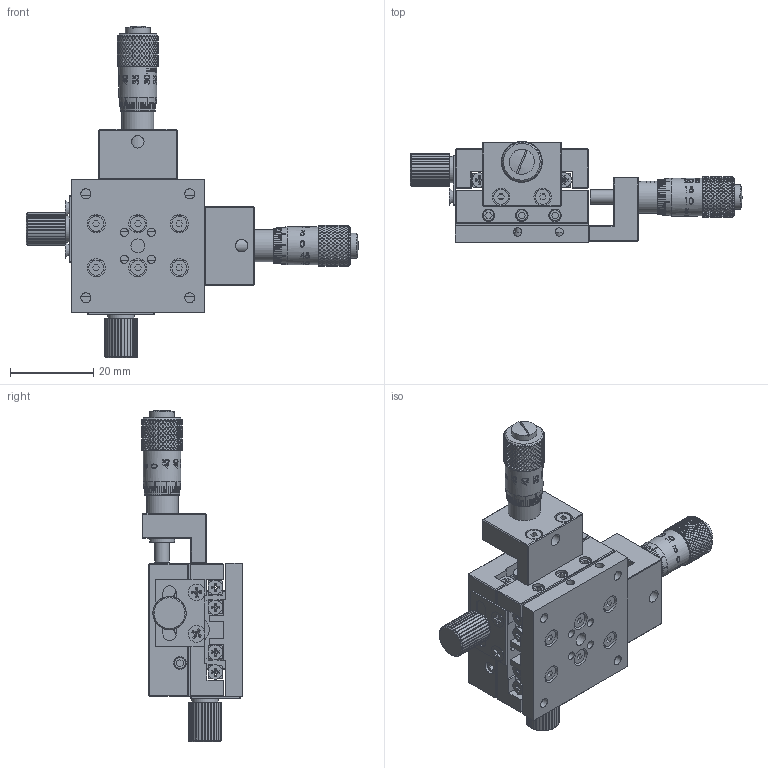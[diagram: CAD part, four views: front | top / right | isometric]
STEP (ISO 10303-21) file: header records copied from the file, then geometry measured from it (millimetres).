
FILE_DESCRIPTION (( 'STEP AP203' ), '1' );
FILE_NAME ('TCS32XY-03.step', '2017-01-10T09:16:53', ( '¦K¬P' ), ( '' ), 'SwSTEP 2.0', 'SolidWorks 2012', '' );
FILE_SCHEMA (( 'CONFIG_CONTROL_DESIGN' ));
Products named in the file (1): TCS32XY-03
Bounding box: 79.87 x 24.2 x 79.67 mm (x, y, z)
Surface area: 19606.7 mm2 (no closed solid volume)
Topology: 0 solids, 117 shells, 4337 faces, 15691 edges, 11020 vertices
Faces by surface type: bspline 2122, cylinder 1359, plane 833, cone 19, sphere 4
Full cylindrical faces by diameter (mm): 1.6 x15, 2 x11, 2.2 x2, 2.4 x4, 2.5 x2, 3 x14, 3.3 x2, 3.5 x15, 3.6 x16, 4 x2, 4.2 x4, 4.4 x16, 6 x3, 6.4 x2, 8.2 x2, 9.1 x2
Entity records: 359274 total; most frequent: CARTESIAN_POINT 263286, ORIENTED_EDGE 26801, EDGE_CURVE 15534, VERTEX_POINT 10995, DIRECTION 9782, B_SPLINE_CURVE_WITH_KNOTS 5837, EDGE_LOOP 4786, FACE_OUTER_BOUND 4450
